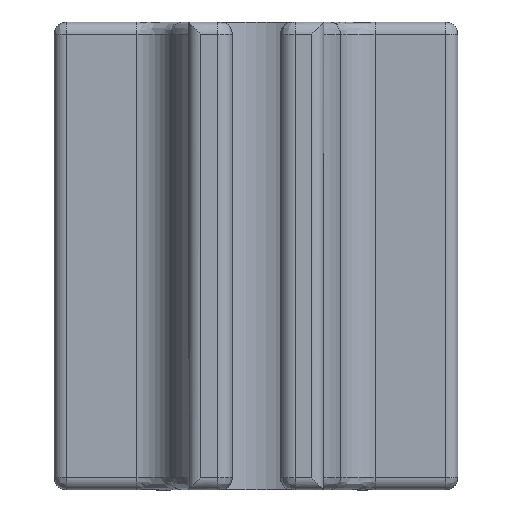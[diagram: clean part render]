
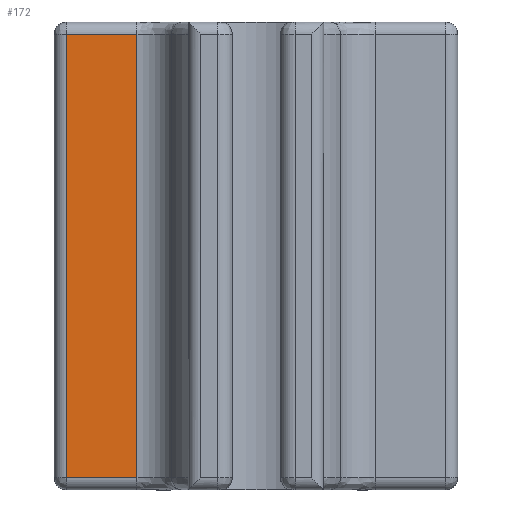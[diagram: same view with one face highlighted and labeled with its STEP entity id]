
A CAD part, front view. The second image highlights one B-rep face of the part: STEP entity #172.
In plain terms, the highlighted planar face has unit normal (0, -1, 0).
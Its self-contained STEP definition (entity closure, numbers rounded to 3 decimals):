
#172 = ADVANCED_FACE ( 'NONE', ( #1844 ), #2341, .T. ) ;
#192 = VERTEX_POINT ( 'NONE', #5287 ) ;
#310 = DIRECTION ( 'NONE',  ( -1., 0., 0. ) ) ;
#480 = LINE ( 'NONE', #2804, #1660 ) ;
#890 = LINE ( 'NONE', #1000, #7100 ) ;
#1000 = CARTESIAN_POINT ( 'NONE',  ( -22.752, -10.35, -37. ) ) ;
#1054 = EDGE_CURVE ( 'NONE', #3523, #192, #2088, .T. ) ;
#1660 = VECTOR ( 'NONE', #5888, 1000. ) ;
#1844 = FACE_OUTER_BOUND ( 'NONE', #3196, .T. ) ;
#2088 = LINE ( 'NONE', #3336, #3857 ) ;
#2098 = ORIENTED_EDGE ( 'NONE', *, *, #3297, .T. ) ;
#2303 = CARTESIAN_POINT ( 'NONE',  ( -22.752, -10.35, -72.756 ) ) ;
#2341 = PLANE ( 'NONE',  #6795 ) ;
#2443 = EDGE_CURVE ( 'NONE', #192, #3168, #480, .T. ) ;
#2804 = CARTESIAN_POINT ( 'NONE',  ( -30.8, -10.35, -1. ) ) ;
#2805 = ORIENTED_EDGE ( 'NONE', *, *, #5979, .F. ) ;
#3168 = VERTEX_POINT ( 'NONE', #6866 ) ;
#3196 = EDGE_LOOP ( 'NONE', ( #2098, #6239, #4730, #2805 ) ) ;
#3297 = EDGE_CURVE ( 'NONE', #3316, #3168, #4172, .T. ) ;
#3316 = VERTEX_POINT ( 'NONE', #4207 ) ;
#3336 = CARTESIAN_POINT ( 'NONE',  ( -30.835, -10.35, -38. ) ) ;
#3523 = VERTEX_POINT ( 'NONE', #4842 ) ;
#3588 = DIRECTION ( 'NONE',  ( 0., 0., 1. ) ) ;
#3857 = VECTOR ( 'NONE', #6192, 1000. ) ;
#4172 = LINE ( 'NONE', #7171, #6450 ) ;
#4207 = CARTESIAN_POINT ( 'NONE',  ( -25.101, -10.35, -37. ) ) ;
#4670 = DIRECTION ( 'NONE',  ( 0., -1., 0. ) ) ;
#4730 = ORIENTED_EDGE ( 'NONE', *, *, #1054, .F. ) ;
#4842 = CARTESIAN_POINT ( 'NONE',  ( -30.835, -10.35, -37. ) ) ;
#5287 = CARTESIAN_POINT ( 'NONE',  ( -30.835, -10.35, -1. ) ) ;
#5322 = DIRECTION ( 'NONE',  ( 1., 0., 0. ) ) ;
#5888 = DIRECTION ( 'NONE',  ( 1., 0., 0. ) ) ;
#5979 = EDGE_CURVE ( 'NONE', #3316, #3523, #890, .T. ) ;
#6192 = DIRECTION ( 'NONE',  ( 0., 0., 1. ) ) ;
#6239 = ORIENTED_EDGE ( 'NONE', *, *, #2443, .F. ) ;
#6450 = VECTOR ( 'NONE', #3588, 1000. ) ;
#6795 = AXIS2_PLACEMENT_3D ( 'NONE', #2303, #4670, #5322 ) ;
#6866 = CARTESIAN_POINT ( 'NONE',  ( -25.101, -10.35, -1. ) ) ;
#7100 = VECTOR ( 'NONE', #310, 1000. ) ;
#7171 = CARTESIAN_POINT ( 'NONE',  ( -25.101, -10.35, -72.756 ) ) ;
